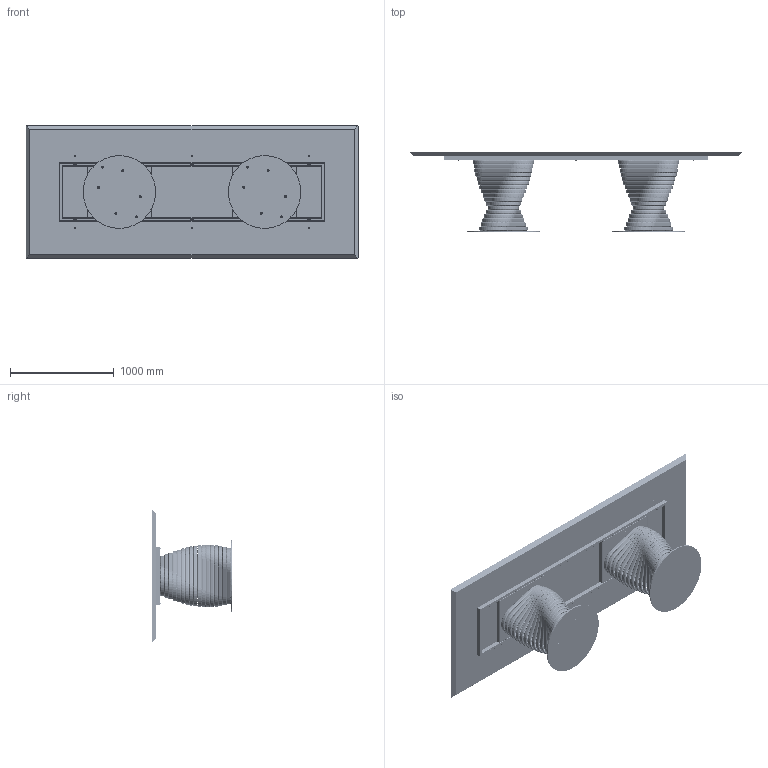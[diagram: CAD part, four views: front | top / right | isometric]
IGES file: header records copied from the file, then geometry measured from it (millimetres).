
Start section: SolidWorks IGES file using analytic representation for surfaces
Global section: file name: Y:\eforma\TECNICO\SOLIDWORKS\E-FORMA\1-TAVOLI\ROTOLO\02 parts\RO278W.IGS; native system: SolidWorks 2022; preprocessor: SolidWorks 2022; author: eforma.tech; date: 240807.152020; units: millimetre
Bounding box: 3200 x 770 x 1280 mm (x, y, z)
Volume: 173850910.8 mm3; surface area: 22902909 mm2
Topology: 182 solids, 182 shells, 3072 faces, 7232 edges, 4460 vertices
Faces by surface type: revolution 1834, plane 1238
